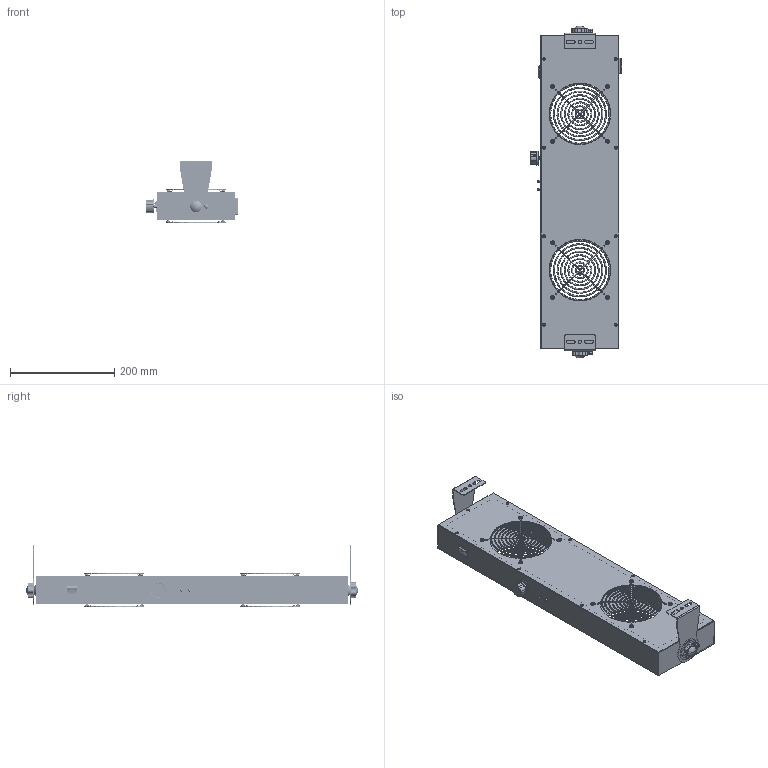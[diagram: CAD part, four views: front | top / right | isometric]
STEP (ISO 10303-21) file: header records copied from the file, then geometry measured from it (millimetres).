
FILE_DESCRIPTION (( 'STEP AP214' ), '1' );
FILE_NAME ('AP-DC2452-60C×°Åä -22.4.20.STEP', '2022-04-15T06:09:23', ( '' ), ( '' ), 'SwSTEP 2.0', 'SolidWorks 2020', '' );
FILE_SCHEMA (( 'AUTOMOTIVE_DESIGN' ));
Length unit declared in the file: millimetre
Products named in the file (12): M4-10忒襪蹟佪; AP-DC2452-60C蚾饜 -22.4.20; 瑞儂600奻裔; 菜え10-1; 瑞儂600菁釱 - 21.9.16; 2452厙欶湍蹟佪; 羲壽22-20-17; 2452唅蛌盓殤-21.9.17; 脣釱31-27-22; 硌尨腑; M6湮蹟裝參忒; 风量调解旋钮（27-24-15）
Assembly tree (19 placements, depth 2):
  AP-DC2452-60C蚾饜 -22.4.20
    瑞儂600菁釱 - 21.9.16
    瑞儂600奻裔
    2452厙欶湍蹟佪  x4
    脣釱31-27-22
    羲壽22-20-17
    风量调解旋钮（27-24-15）
    硌尨腑  x2
    M6湮蹟裝參忒  x2
    2452唅蛌盓殤-21.9.17  x2
    M4-10忒襪蹟佪  x2
    菜え10-1  x2
Bounding box: 175 x 637 x 120.55 mm (x, y, z)
Volume: 404691.8 mm3; surface area: 557033.6 mm2
Topology: 16 solids, 36 shells, 1883 faces, 5197 edges, 3242 vertices
Faces by surface type: plane 769, cylinder 640, bspline 428, cone 34, torus 6, sphere 6
Entity records: 41714 total; most frequent: CARTESIAN_POINT 12633, ORIENTED_EDGE 4958, DIRECTION 4712, EDGE_CURVE 2479, AXIS2_PLACEMENT_3D 1762, VERTEX_POINT 1584, VECTOR 1188, LINE 1188
